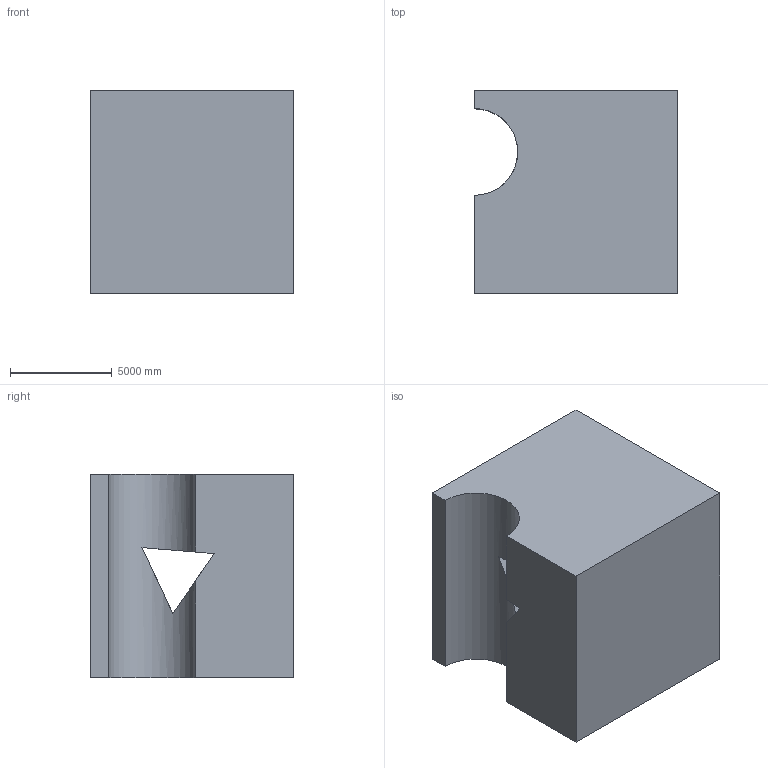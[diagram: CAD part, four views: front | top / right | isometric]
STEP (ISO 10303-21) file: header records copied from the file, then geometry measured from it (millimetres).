
FILE_DESCRIPTION (( 'STEP AP203' ), '1' );
FILE_NAME ('1051.STEP', '2022-08-18T12:34:14', ( 'user' ), ( '' ), 'SwSTEP 2.0', 'SolidWorks 2021', '' );
FILE_SCHEMA (( 'CONFIG_CONTROL_DESIGN' ));
Length unit declared in the file: centimetre
Products named in the file (1): 1051
Bounding box: 10000 x 10000 x 10000 mm (x, y, z)
Volume: 881294732279.4 mm3; surface area: 689486405.3 mm2
Topology: 1 solids, 1 shells, 11 faces, 30 edges, 20 vertices
Faces by surface type: plane 10, cylinder 1
Entity records: 427 total; most frequent: CARTESIAN_POINT 71, ORIENTED_EDGE 60, DIRECTION 53, EDGE_CURVE 30, VECTOR 25, LINE 25, VERTEX_POINT 20, AXIS2_PLACEMENT_3D 14
